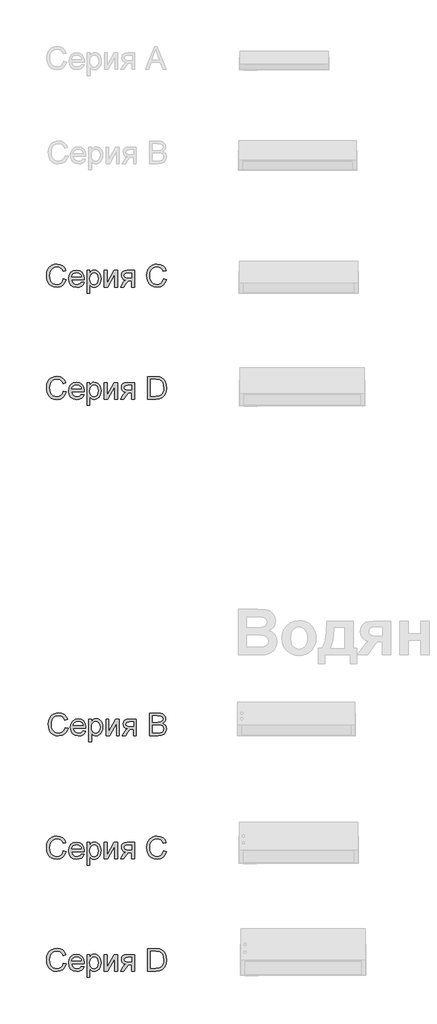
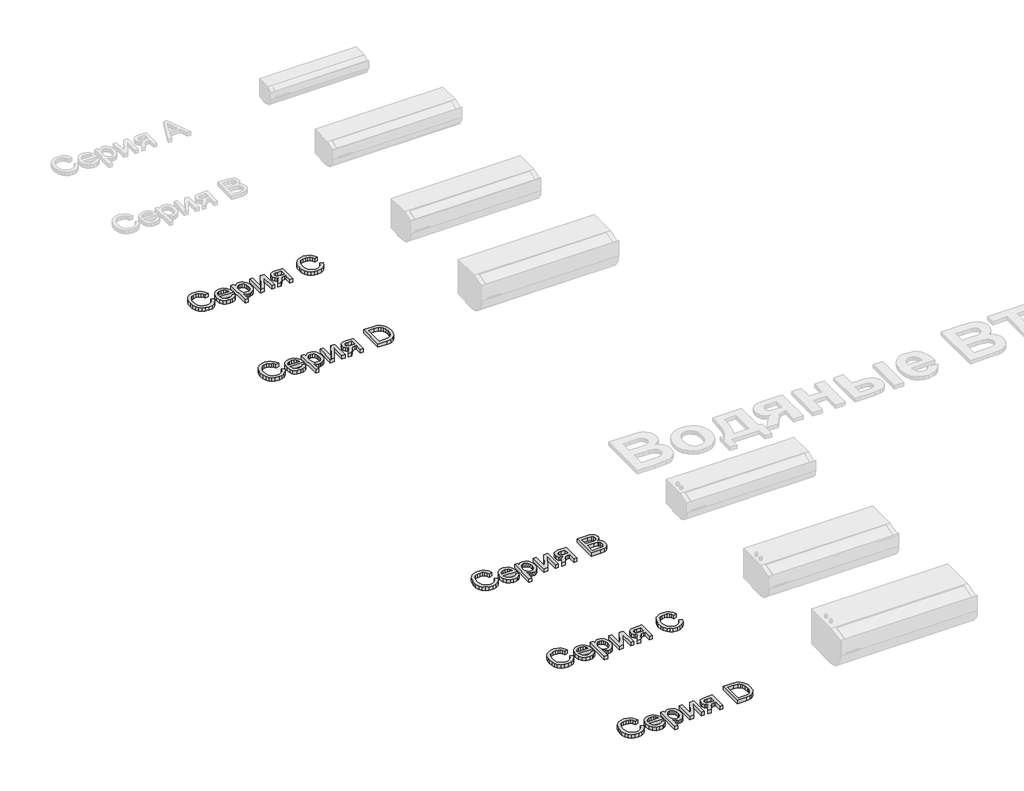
# One storey, part 4 of 8: 5 proxies.
"""IFC4 building model written with IfcOpenShell, lengths in millimetres."""

from ifc_helpers import new_model, si_unit, origin, origin_with_axes, place, context, project, spatial, polyline, outline, extrude, element, save

model = new_model("IFC4")

# Units and contexts
model_context = context("Model", 3, world=origin())
ifc_project = project(units=[si_unit("LENGTHUNIT", "METRE", prefix="MILLI")], contexts=[model_context])

# Site, building, storey
site = spatial("IfcSite", under=ifc_project)
building = spatial("IfcBuilding", under=site)
storey = spatial("IfcBuildingStorey", under=building, Name="Уровень 1", Elevation=0.0)

# Proxies
placement = place(None, origin())
element("IfcBuildingElementProxy", 1, Name="ИЗТТ_Текст2", ObjectType="ИЗТТ_Текст2", at=placement, inside=storey, context=model_context, shape_type="SweptSolid", body=[
    extrude(outline(polyline([(-16897.3788822, 12922.2564624), (-16872.2648047, 12915.7817392), (-16883.8530875, 12886.5167265), (-16902.0387208, 12865.1366512), (-16925.926525, 12852.0584463), (-16954.6213207, 12847.6990447), (-16983.7514433, 12850.9977199), (-17006.8850894, 12860.8937456), (-17024.6170016, 12877.0437651), (-17037.5419224, 12899.1044221), (-17045.4329912, 12925.0401028), (-17048.0633474, 12952.8151934), (-17045.0896346, 12982.110863), (-17036.1684963, 13007.4088815), (-17021.7659162, 13027.90604), (-17002.3478782, 13042.7991294), (-16979.3184653, 13051.8674206), (-16954.0817604, 13054.8901843), (-16926.5457931, 13050.9783725), (-16903.7800289, 13039.2429368), (-16886.4957065, 13020.4073787), (-16875.4040644, 12995.1951993), (-16900.5181419, 12989.2109855), (-16909.2246825, 13007.5253775), (-16921.1195336, 13020.0885476), (-16936.3498482, 13027.354217), (-16955.0627791, 13029.7761068), (-16976.6329267, 13027.0905682), (-16994.3525761, 13019.0339526), (-17007.7986631, 13006.4523883), (-17016.5481232, 12990.1920041), (-17021.3489832, 12971.8101671), (-17022.9492699, 12952.8642444), (-17021.0546776, 12929.6631532), (-17015.3709008, 12909.6013217), (-17005.6833416, 12893.4451708), (-16991.7774022, 12881.9611212), (-16975.1062164, 12875.1001219), (-16957.1229182, 12872.8131222), (-16936.1597759, 12875.9278564), (-16918.6915125, 12885.2720591), (-16905.5029429, 12900.7476284), (-16897.3788822, 12922.2564624)])), origin_with_axes(), (0.0, 0.0, 1.0), 30.0),
    extrude(outline(polyline([(-16737.5709435, 12894.78794), (-16712.9473753, 12891.6486804), (-16721.8194628, 12873.0951651), (-16735.9767882, 12859.2260138), (-16755.1005206, 12850.580787), (-16778.8718288, 12847.6990447), (-16808.3391766, 12852.671583), (-16831.0129703, 12867.5891979), (-16845.4707327, 12891.4831335), (-16850.2899868, 12923.3846338), (-16845.4216818, 12956.3591233), (-16830.8167666, 12981.0194797), (-16808.4495412, 12996.3969471), (-16780.2943059, 13001.5227696), (-16753.0158559, 12996.4092098), (-16731.2188477, 12981.0685307), (-16716.9266322, 12956.4572252), (-16712.1625604, 12923.5317866), (-16712.3097132, 12916.7627579), (-16825.1759093, 12916.7627579), (-16820.8287704, 12897.9639879), (-16810.7304096, 12884.1438877), (-16796.1561512, 12875.6458136), (-16778.3813195, 12872.8131222), (-16753.7577513, 12878.061572), (-16744.6097524, 12884.8673889), (-16737.5709435, 12894.78794)]), holes=[polyline([(-16825.1759093, 12941.8768354), (-16737.2766379, 12941.8768354), (-16740.673415, 12955.1451127), (-16747.3320791, 12964.6364682), (-16761.9737825, 12973.4656361), (-16780.3924077, 12976.408692), (-16797.3211109, 12974.0603786), (-16811.3190208, 12967.0154384), (-16821.0494996, 12956.0341609), (-16825.1759093, 12941.8768354)])]), origin_with_axes(), (0.0, 0.0, 1.0), 30.0),
    extrude(outline(polyline([(-16687.0484828, 12794.3316299), (-16687.0484828, 12998.3835099), (-16661.9344053, 12998.3835099), (-16661.9344053, 12973.7599417), (-16644.5703751, 12994.5820626), (-16633.8772718, 12999.7875928), (-16621.1240293, 13001.5227696), (-16604.1401439, 12999.0947484), (-16589.289974, 12991.8106849), (-16577.1989191, 12980.1120375), (-16568.4923785, 12964.4402645), (-16563.231666, 12945.9358001), (-16561.4780952, 12925.7390786), (-16563.4585266, 12904.2609014), (-16569.3998208, 12885.0513299), (-16579.1119055, 12869.0852513), (-16592.4047082, 12857.3375529), (-16607.8864088, 12850.1086717), (-16624.1651871, 12847.6990447), (-16635.7105504, 12849.3115941), (-16646.0173776, 12854.1492423), (-16661.9344053, 12870.4586774), (-16661.9344053, 12794.3316299), (-16687.0484828, 12794.3316299)]), holes=[polyline([(-16661.9344053, 12923.4336847), (-16659.2182099, 12900.9193066), (-16651.0696237, 12885.1739572), (-16639.0460138, 12875.903331), (-16624.7047474, 12872.8131222), (-16610.130489, 12876.0136956), (-16597.8003108, 12885.6154156), (-16589.3942072, 12901.9371135), (-16586.5921727, 12925.2976202), (-16589.3267622, 12947.689371), (-16597.5305307, 12963.6554495), (-16609.5357465, 12973.2203814), (-16623.6746778, 12976.408692), (-16637.8687915, 12973.0180463), (-16650.3338597, 12962.8461092), (-16659.0342689, 12946.2117116), (-16661.9344053, 12923.4336847)])]), origin_with_axes(), (0.0, 0.0, 1.0), 30.0),
    extrude(outline(polyline([(-16533.2247579, 12998.3835099), (-16508.1106804, 12998.3835099), (-16508.1106804, 12885.8606703), (-16446.4046071, 12998.3835099), (-16413.9328896, 12998.3835099), (-16413.9328896, 12850.8383044), (-16439.0469672, 12850.8383044), (-16439.0469672, 12962.6744309), (-16500.360633, 12850.8383044), (-16533.2247579, 12850.8383044), (-16533.2247579, 12998.3835099)])), origin_with_axes(), (0.0, 0.0, 1.0), 30.0),
    extrude(outline(polyline([(-16263.2484244, 12998.3835099), (-16263.2484244, 12850.8383044), (-16288.3625019, 12850.8383044), (-16288.3625019, 12907.3449788), (-16302.0477122, 12907.3449788), (-16320.6870666, 12904.1566682), (-16338.1982495, 12882.7214106), (-16358.2110301, 12850.8383044), (-16387.2491822, 12850.8383044), (-16362.0370028, 12891.158171), (-16350.9024411, 12905.6281962), (-16340.6507962, 12912.0538684), (-16357.8186226, 12917.3145809), (-16369.8851521, 12927.3087084), (-16377.0220628, 12940.6015112), (-16379.401033, 12955.7582494), (-16376.1514087, 12972.9506013), (-16366.4025358, 12986.5622351), (-16350.4977709, 12995.4281912), (-16328.7804705, 12998.3835099), (-16263.2484244, 12998.3835099)]), holes=[polyline([(-16288.3625019, 12973.2694324), (-16321.4718815, 12973.2694324), (-16338.5722629, 12971.8162985), (-16348.2782162, 12967.4568968), (-16354.2869555, 12953.845263), (-16352.0735321, 12944.2741998), (-16345.4332621, 12937.6339298), (-16333.1643976, 12933.7527747), (-16314.0651907, 12932.4590564), (-16288.3625019, 12932.4590564), (-16288.3625019, 12973.2694324)])]), origin_with_axes(), (0.0, 0.0, 1.0), 30.0),
    extrude(outline(polyline([(-16143.9565561, 12850.8383044), (-16143.9565561, 13051.7509247), (-16074.6475882, 13051.7509247), (-16038.7913564, 13048.8569196), (-16022.7762269, 13043.277376), (-16009.2626949, 13034.4849964), (-15995.3690182, 13019.1811054), (-15985.4729926, 13000.1493435), (-15979.5500924, 12977.7575927), (-15977.5757924, 12952.373735), (-15982.9223441, 12911.8331392), (-15996.6566052, 12882.5742578), (-16015.0016541, 12864.3518363), (-16039.0120856, 12854.2718696), (-16071.3121248, 12850.8383044), (-16143.9565561, 12850.8383044)]), holes=[polyline([(-16118.8424786, 12875.9523819), (-16074.4023335, 12875.9523819), (-16042.0777689, 12879.5821509), (-16023.4384145, 12889.8337958), (-16014.7134798, 12900.7047088), (-16008.1590489, 12914.7761951), (-16004.0571647, 12932.1095685), (-16002.6898699, 12952.7661425), (-16005.3692771, 12980.1365629), (-16013.4074987, 13000.3455472), (-16025.2839558, 13014.2269611), (-16039.4780695, 13022.6146706), (-16075.0890466, 13026.6368471), (-16118.8424786, 13026.6368471), (-16118.8424786, 12875.9523819)])]), origin_with_axes(), (0.0, 0.0, 1.0), 30.0),
])
element("IfcBuildingElementProxy", 2, Name="ИЗТТ_Текст2", ObjectType="ИЗТТ_Текст2", at=placement, inside=storey, context=model_context, shape_type="SweptSolid", body=[
    extrude(outline(polyline([(-16897.3788822, 13922.2564624), (-16872.2648047, 13915.7817392), (-16883.8530875, 13886.5167265), (-16902.0387208, 13865.1366512), (-16925.926525, 13852.0584463), (-16954.6213207, 13847.6990447), (-16983.7514433, 13850.9977199), (-17006.8850894, 13860.8937456), (-17024.6170016, 13877.0437651), (-17037.5419224, 13899.1044221), (-17045.4329912, 13925.0401028), (-17048.0633474, 13952.8151934), (-17045.0896346, 13982.110863), (-17036.1684963, 14007.4088815), (-17021.7659162, 14027.90604), (-17002.3478782, 14042.7991294), (-16979.3184653, 14051.8674206), (-16954.0817604, 14054.8901843), (-16926.5457931, 14050.9783725), (-16903.7800289, 14039.2429368), (-16886.4957065, 14020.4073787), (-16875.4040644, 13995.1951993), (-16900.5181419, 13989.2109855), (-16909.2246825, 14007.5253775), (-16921.1195336, 14020.0885476), (-16936.3498482, 14027.354217), (-16955.0627791, 14029.7761068), (-16976.6329267, 14027.0905682), (-16994.3525761, 14019.0339526), (-17007.7986631, 14006.4523883), (-17016.5481232, 13990.1920041), (-17021.3489832, 13971.8101671), (-17022.9492699, 13952.8642444), (-17021.0546776, 13929.6631532), (-17015.3709008, 13909.6013217), (-17005.6833416, 13893.4451708), (-16991.7774022, 13881.9611212), (-16975.1062164, 13875.1001219), (-16957.1229182, 13872.8131222), (-16936.1597759, 13875.9278564), (-16918.6915125, 13885.2720591), (-16905.5029429, 13900.7476284), (-16897.3788822, 13922.2564624)])), origin_with_axes(), (0.0, 0.0, 1.0), 30.0),
    extrude(outline(polyline([(-16737.5709435, 13894.78794), (-16712.9473753, 13891.6486804), (-16721.8194628, 13873.0951651), (-16735.9767882, 13859.2260138), (-16755.1005206, 13850.580787), (-16778.8718288, 13847.6990447), (-16808.3391766, 13852.671583), (-16831.0129703, 13867.5891979), (-16845.4707327, 13891.4831335), (-16850.2899868, 13923.3846338), (-16845.4216818, 13956.3591233), (-16830.8167666, 13981.0194797), (-16808.4495412, 13996.3969471), (-16780.2943059, 14001.5227696), (-16753.0158559, 13996.4092098), (-16731.2188477, 13981.0685307), (-16716.9266322, 13956.4572252), (-16712.1625604, 13923.5317866), (-16712.3097132, 13916.7627579), (-16825.1759093, 13916.7627579), (-16820.8287704, 13897.9639879), (-16810.7304096, 13884.1438877), (-16796.1561512, 13875.6458136), (-16778.3813195, 13872.8131222), (-16753.7577513, 13878.061572), (-16744.6097524, 13884.8673889), (-16737.5709435, 13894.78794)]), holes=[polyline([(-16825.1759093, 13941.8768354), (-16737.2766379, 13941.8768354), (-16740.673415, 13955.1451127), (-16747.3320791, 13964.6364682), (-16761.9737825, 13973.4656361), (-16780.3924077, 13976.408692), (-16797.3211109, 13974.0603786), (-16811.3190208, 13967.0154384), (-16821.0494996, 13956.0341609), (-16825.1759093, 13941.8768354)])]), origin_with_axes(), (0.0, 0.0, 1.0), 30.0),
    extrude(outline(polyline([(-16687.0484828, 13794.3316299), (-16687.0484828, 13998.3835099), (-16661.9344053, 13998.3835099), (-16661.9344053, 13973.7599417), (-16644.5703751, 13994.5820626), (-16633.8772718, 13999.7875928), (-16621.1240293, 14001.5227696), (-16604.1401439, 13999.0947484), (-16589.289974, 13991.8106849), (-16577.1989191, 13980.1120375), (-16568.4923785, 13964.4402645), (-16563.231666, 13945.9358001), (-16561.4780952, 13925.7390786), (-16563.4585266, 13904.2609014), (-16569.3998208, 13885.0513299), (-16579.1119055, 13869.0852513), (-16592.4047082, 13857.3375529), (-16607.8864088, 13850.1086717), (-16624.1651871, 13847.6990447), (-16635.7105504, 13849.3115941), (-16646.0173776, 13854.1492423), (-16661.9344053, 13870.4586774), (-16661.9344053, 13794.3316299), (-16687.0484828, 13794.3316299)]), holes=[polyline([(-16661.9344053, 13923.4336847), (-16659.2182099, 13900.9193066), (-16651.0696237, 13885.1739572), (-16639.0460138, 13875.903331), (-16624.7047474, 13872.8131222), (-16610.130489, 13876.0136956), (-16597.8003108, 13885.6154156), (-16589.3942072, 13901.9371135), (-16586.5921727, 13925.2976202), (-16589.3267622, 13947.689371), (-16597.5305307, 13963.6554495), (-16609.5357465, 13973.2203814), (-16623.6746778, 13976.408692), (-16637.8687915, 13973.0180463), (-16650.3338597, 13962.8461092), (-16659.0342689, 13946.2117116), (-16661.9344053, 13923.4336847)])]), origin_with_axes(), (0.0, 0.0, 1.0), 30.0),
    extrude(outline(polyline([(-16533.2247579, 13998.3835099), (-16508.1106804, 13998.3835099), (-16508.1106804, 13885.8606703), (-16446.4046071, 13998.3835099), (-16413.9328896, 13998.3835099), (-16413.9328896, 13850.8383044), (-16439.0469672, 13850.8383044), (-16439.0469672, 13962.6744309), (-16500.360633, 13850.8383044), (-16533.2247579, 13850.8383044), (-16533.2247579, 13998.3835099)])), origin_with_axes(), (0.0, 0.0, 1.0), 30.0),
    extrude(outline(polyline([(-16263.2484244, 13998.3835099), (-16263.2484244, 13850.8383044), (-16288.3625019, 13850.8383044), (-16288.3625019, 13907.3449788), (-16302.0477122, 13907.3449788), (-16320.6870666, 13904.1566682), (-16338.1982495, 13882.7214106), (-16358.2110301, 13850.8383044), (-16387.2491822, 13850.8383044), (-16362.0370028, 13891.158171), (-16350.9024411, 13905.6281962), (-16340.6507962, 13912.0538684), (-16357.8186226, 13917.3145809), (-16369.8851521, 13927.3087084), (-16377.0220628, 13940.6015112), (-16379.401033, 13955.7582494), (-16376.1514087, 13972.9506013), (-16366.4025358, 13986.5622351), (-16350.4977709, 13995.4281912), (-16328.7804705, 13998.3835099), (-16263.2484244, 13998.3835099)]), holes=[polyline([(-16288.3625019, 13973.2694324), (-16321.4718815, 13973.2694324), (-16338.5722629, 13971.8162985), (-16348.2782162, 13967.4568968), (-16354.2869555, 13953.845263), (-16352.0735321, 13944.2741998), (-16345.4332621, 13937.6339298), (-16333.1643976, 13933.7527747), (-16314.0651907, 13932.4590564), (-16288.3625019, 13932.4590564), (-16288.3625019, 13973.2694324)])]), origin_with_axes(), (0.0, 0.0, 1.0), 30.0),
    extrude(outline(polyline([(-16002.6898699, 13922.2564624), (-15977.5757924, 13915.7817392), (-15989.1640753, 13886.5167265), (-16007.3497086, 13865.1366512), (-16031.2375128, 13852.0584463), (-16059.9323084, 13847.6990447), (-16089.062431, 13850.9977199), (-16112.1960772, 13860.8937456), (-16129.9279893, 13877.0437651), (-16142.8529101, 13899.1044221), (-16150.7439789, 13925.0401028), (-16153.3743352, 13952.8151934), (-16150.4006224, 13982.110863), (-16141.479484, 14007.4088815), (-16127.0769039, 14027.90604), (-16107.6588659, 14042.7991294), (-16084.629453, 14051.8674206), (-16059.3927481, 14054.8901843), (-16031.8567808, 14050.9783725), (-16009.0910167, 14039.2429368), (-15991.8066943, 14020.4073787), (-15980.7150521, 13995.1951993), (-16005.8291296, 13989.2109855), (-16014.5356702, 14007.5253775), (-16026.4305214, 14020.0885476), (-16041.660836, 14027.354217), (-16060.3737668, 14029.7761068), (-16081.9439144, 14027.0905682), (-16099.6635639, 14019.0339526), (-16113.1096508, 14006.4523883), (-16121.8591109, 13990.1920041), (-16126.659971, 13971.8101671), (-16128.2602576, 13952.8642444), (-16126.3656654, 13929.6631532), (-16120.6818885, 13909.6013217), (-16110.9943293, 13893.4451708), (-16097.0883899, 13881.9611212), (-16080.4172042, 13875.1001219), (-16062.433906, 13872.8131222), (-16041.4707636, 13875.9278564), (-16024.0025002, 13885.2720591), (-16010.8139307, 13900.7476284), (-16002.6898699, 13922.2564624)])), origin_with_axes(), (0.0, 0.0, 1.0), 30.0),
])
element("IfcBuildingElementProxy", 3, Name="ИЗТТ_Текст2", ObjectType="ИЗТТ_Текст2", at=placement, inside=storey, context=model_context, shape_type="SweptSolid", body=[
    extrude(outline(polyline([(-16881.6825838, 9922.2564624), (-16856.5685062, 9915.7817392), (-16868.1567891, 9886.5167265), (-16886.3424224, 9865.1366512), (-16910.2302266, 9852.0584463), (-16938.9250222, 9847.6990447), (-16968.0551449, 9850.9977199), (-16991.188791, 9860.8937456), (-17008.9207032, 9877.0437651), (-17021.8456239, 9899.1044221), (-17029.7366927, 9925.0401028), (-17032.367049, 9952.8151934), (-17029.3933362, 9982.110863), (-17020.4721978, 10007.4088815), (-17006.0696177, 10027.90604), (-16986.6515797, 10042.7991294), (-16963.6221668, 10051.8674206), (-16938.3854619, 10054.8901843), (-16910.8494946, 10050.9783725), (-16888.0837305, 10039.2429368), (-16870.7994081, 10020.4073787), (-16859.7077659, 9995.1951993), (-16884.8218434, 9989.2109855), (-16893.528384, 10007.5253775), (-16905.4232352, 10020.0885476), (-16920.6535498, 10027.354217), (-16939.3664806, 10029.7761068), (-16960.9366282, 10027.0905682), (-16978.6562777, 10019.0339526), (-16992.1023646, 10006.4523883), (-17000.8518247, 9990.1920041), (-17005.6526848, 9971.8101671), (-17007.2529714, 9952.8642444), (-17005.3583792, 9929.6631532), (-16999.6746023, 9909.6013217), (-16989.9870431, 9893.4451708), (-16976.0811037, 9881.9611212), (-16959.409918, 9875.1001219), (-16941.4266198, 9872.8131222), (-16920.4634774, 9875.9278564), (-16902.995214, 9885.2720591), (-16889.8066445, 9900.7476284), (-16881.6825838, 9922.2564624)])), origin_with_axes(), (0.0, 0.0, 1.0), 30.0),
    extrude(outline(polyline([(-16721.874645, 9894.78794), (-16697.2510768, 9891.6486804), (-16706.1231643, 9873.0951651), (-16720.2804897, 9859.2260138), (-16739.4042221, 9850.580787), (-16763.1755304, 9847.6990447), (-16792.6428782, 9852.671583), (-16815.3166718, 9867.5891979), (-16829.7744342, 9891.4831335), (-16834.5936884, 9923.3846338), (-16829.7253833, 9956.3591233), (-16815.1204681, 9981.0194797), (-16792.7532428, 9996.3969471), (-16764.5980074, 10001.5227696), (-16737.3195575, 9996.4092098), (-16715.5225493, 9981.0685307), (-16701.2303338, 9956.4572252), (-16696.4662619, 9923.5317866), (-16696.6134147, 9916.7627579), (-16809.4796108, 9916.7627579), (-16805.1324719, 9897.9639879), (-16795.0341112, 9884.1438877), (-16780.4598528, 9875.6458136), (-16762.685021, 9872.8131222), (-16738.0614528, 9878.061572), (-16728.9134539, 9884.8673889), (-16721.874645, 9894.78794)]), holes=[polyline([(-16809.4796108, 9941.8768354), (-16721.5803395, 9941.8768354), (-16724.9771165, 9955.1451127), (-16731.6357807, 9964.6364682), (-16746.2774841, 9973.4656361), (-16764.6961093, 9976.408692), (-16781.6248124, 9974.0603786), (-16795.6227223, 9967.0154384), (-16805.3532011, 9956.0341609), (-16809.4796108, 9941.8768354)])]), origin_with_axes(), (0.0, 0.0, 1.0), 30.0),
    extrude(outline(polyline([(-16671.3521844, 9794.3316299), (-16671.3521844, 9998.3835099), (-16646.2381068, 9998.3835099), (-16646.2381068, 9973.7599417), (-16628.8740767, 9994.5820626), (-16618.1809733, 9999.7875928), (-16605.4277308, 10001.5227696), (-16588.4438454, 9999.0947484), (-16573.5936755, 9991.8106849), (-16561.5026206, 9980.1120375), (-16552.7960801, 9964.4402645), (-16547.5353675, 9945.9358001), (-16545.7817967, 9925.7390786), (-16547.7622281, 9904.2609014), (-16553.7035223, 9885.0513299), (-16563.415607, 9869.0852513), (-16576.7084098, 9857.3375529), (-16592.1901104, 9850.1086717), (-16608.4688887, 9847.6990447), (-16620.014252, 9849.3115941), (-16630.3210792, 9854.1492423), (-16646.2381068, 9870.4586774), (-16646.2381068, 9794.3316299), (-16671.3521844, 9794.3316299)]), holes=[polyline([(-16646.2381068, 9923.4336847), (-16643.5219114, 9900.9193066), (-16635.3733253, 9885.1739572), (-16623.3497154, 9875.903331), (-16609.0084489, 9872.8131222), (-16594.4341906, 9876.0136956), (-16582.1040123, 9885.6154156), (-16573.6979088, 9901.9371135), (-16570.8958742, 9925.2976202), (-16573.6304637, 9947.689371), (-16581.8342322, 9963.6554495), (-16593.839448, 9973.2203814), (-16607.9783793, 9976.408692), (-16622.172493, 9973.0180463), (-16634.6375613, 9962.8461092), (-16643.3379704, 9946.2117116), (-16646.2381068, 9923.4336847)])]), origin_with_axes(), (0.0, 0.0, 1.0), 30.0),
    extrude(outline(polyline([(-16517.5284595, 9998.3835099), (-16492.4143819, 9998.3835099), (-16492.4143819, 9885.8606703), (-16430.7083086, 9998.3835099), (-16398.2365912, 9998.3835099), (-16398.2365912, 9850.8383044), (-16423.3506687, 9850.8383044), (-16423.3506687, 9962.6744309), (-16484.6643346, 9850.8383044), (-16517.5284595, 9850.8383044), (-16517.5284595, 9998.3835099)])), origin_with_axes(), (0.0, 0.0, 1.0), 30.0),
    extrude(outline(polyline([(-16247.5521259, 9998.3835099), (-16247.5521259, 9850.8383044), (-16272.6662035, 9850.8383044), (-16272.6662035, 9907.3449788), (-16286.3514137, 9907.3449788), (-16304.9907681, 9904.1566682), (-16322.5019511, 9882.7214106), (-16342.5147316, 9850.8383044), (-16371.5528838, 9850.8383044), (-16346.3407044, 9891.158171), (-16335.2061427, 9905.6281962), (-16324.9544977, 9912.0538684), (-16342.1223242, 9917.3145809), (-16354.1888536, 9927.3087084), (-16361.3257643, 9940.6015112), (-16363.7047345, 9955.7582494), (-16360.4551103, 9972.9506013), (-16350.7062374, 9986.5622351), (-16334.8014725, 9995.4281912), (-16313.084172, 9998.3835099), (-16247.5521259, 9998.3835099)]), holes=[polyline([(-16272.6662035, 9973.2694324), (-16305.775583, 9973.2694324), (-16322.8759644, 9971.8162985), (-16332.5819178, 9967.4568968), (-16338.590657, 9953.845263), (-16336.3772337, 9944.2741998), (-16329.7369637, 9937.6339298), (-16317.4680991, 9933.7527747), (-16298.3688922, 9932.4590564), (-16272.6662035, 9932.4590564), (-16272.6662035, 9973.2694324)])]), origin_with_axes(), (0.0, 0.0, 1.0), 30.0),
    extrude(outline(polyline([(-16128.2602576, 9850.8383044), (-16128.2602576, 10051.7509247), (-16051.5936498, 10051.7509247), (-16030.5078801, 10050.2732653), (-16014.0451609, 10045.8402873), (-16001.4268084, 10038.3416259), (-15991.8741393, 10027.6669167), (-15985.8592687, 10015.1098779), (-15983.8543118, 10001.964228), (-15985.5404376, 9989.8670417), (-15990.598815, 9978.4933567), (-15999.0662323, 9968.5421487), (-16010.9794776, 9960.7123936), (-15996.7485757, 9953.2811773), (-15986.233282, 9941.9749373), (-15979.7401648, 9927.5417004), (-15977.5757924, 9910.7294932), (-15983.4864298, 9883.7269547), (-15998.1281332, 9864.4989891), (-16019.9803237, 9854.2963951), (-16052.182261, 9850.8383044), (-16128.2602576, 9850.8383044)]), holes=[polyline([(-16103.1461801, 9970.1301727), (-16057.283558, 9970.1301727), (-16030.5017488, 9972.2884137), (-16014.3885174, 9981.5835654), (-16008.9683893, 9997.9420515), (-16014.0206354, 10014.325063), (-16028.4906605, 10024.0126222), (-16060.7661743, 10026.6368471), (-16103.1461801, 10026.6368471), (-16103.1461801, 9970.1301727)]), polyline([(-16103.1461801, 9875.9523819), (-16051.6427008, 9875.9523819), (-16033.0033463, 9876.9334005), (-16017.2334715, 9882.4025795), (-16006.7856228, 9893.5616667), (-16002.6898699, 9910.4842385), (-16007.4968613, 9930.0065097), (-16013.7937748, 9937.0637127), (-16023.0705325, 9941.6561062), (-16054.0952474, 9945.0160951), (-16103.1461801, 9945.0160951), (-16103.1461801, 9875.9523819)])]), origin_with_axes(), (0.0, 0.0, 1.0), 30.0),
])
element("IfcBuildingElementProxy", 4, Name="ИЗТТ_Текст2", ObjectType="ИЗТТ_Текст2", at=placement, inside=storey, context=model_context, shape_type="SweptSolid", body=[
    extrude(outline(polyline([(-16897.3788822, 7822.2564624), (-16872.2648047, 7815.7817392), (-16883.8530875, 7786.5167265), (-16902.0387208, 7765.1366512), (-16925.926525, 7752.0584463), (-16954.6213207, 7747.6990447), (-16983.7514433, 7750.9977199), (-17006.8850894, 7760.8937456), (-17024.6170016, 7777.0437651), (-17037.5419224, 7799.1044221), (-17045.4329912, 7825.0401028), (-17048.0633474, 7852.8151934), (-17045.0896346, 7882.110863), (-17036.1684963, 7907.4088815), (-17021.7659162, 7927.90604), (-17002.3478782, 7942.7991294), (-16979.3184653, 7951.8674206), (-16954.0817604, 7954.8901843), (-16926.5457931, 7950.9783725), (-16903.7800289, 7939.2429368), (-16886.4957065, 7920.4073787), (-16875.4040644, 7895.1951993), (-16900.5181419, 7889.2109855), (-16909.2246825, 7907.5253775), (-16921.1195336, 7920.0885476), (-16936.3498482, 7927.354217), (-16955.0627791, 7929.7761068), (-16976.6329267, 7927.0905682), (-16994.3525761, 7919.0339526), (-17007.7986631, 7906.4523883), (-17016.5481232, 7890.1920041), (-17021.3489832, 7871.8101671), (-17022.9492699, 7852.8642444), (-17021.0546776, 7829.6631532), (-17015.3709008, 7809.6013217), (-17005.6833416, 7793.4451708), (-16991.7774022, 7781.9611212), (-16975.1062164, 7775.1001219), (-16957.1229182, 7772.8131222), (-16936.1597759, 7775.9278564), (-16918.6915125, 7785.2720591), (-16905.5029429, 7800.7476284), (-16897.3788822, 7822.2564624)])), origin_with_axes(), (0.0, 0.0, 1.0), 30.0),
    extrude(outline(polyline([(-16737.5709435, 7794.78794), (-16712.9473753, 7791.6486804), (-16721.8194628, 7773.0951651), (-16735.9767882, 7759.2260138), (-16755.1005206, 7750.580787), (-16778.8718288, 7747.6990447), (-16808.3391766, 7752.671583), (-16831.0129703, 7767.5891979), (-16845.4707327, 7791.4831335), (-16850.2899868, 7823.3846338), (-16845.4216818, 7856.3591233), (-16830.8167666, 7881.0194797), (-16808.4495412, 7896.3969471), (-16780.2943059, 7901.5227696), (-16753.0158559, 7896.4092098), (-16731.2188477, 7881.0685307), (-16716.9266322, 7856.4572252), (-16712.1625604, 7823.5317866), (-16712.3097132, 7816.7627579), (-16825.1759093, 7816.7627579), (-16820.8287704, 7797.9639879), (-16810.7304096, 7784.1438877), (-16796.1561512, 7775.6458136), (-16778.3813195, 7772.8131222), (-16753.7577513, 7778.061572), (-16744.6097524, 7784.8673889), (-16737.5709435, 7794.78794)]), holes=[polyline([(-16825.1759093, 7841.8768354), (-16737.2766379, 7841.8768354), (-16740.673415, 7855.1451127), (-16747.3320791, 7864.6364682), (-16761.9737825, 7873.4656361), (-16780.3924077, 7876.408692), (-16797.3211109, 7874.0603786), (-16811.3190208, 7867.0154384), (-16821.0494996, 7856.0341609), (-16825.1759093, 7841.8768354)])]), origin_with_axes(), (0.0, 0.0, 1.0), 30.0),
    extrude(outline(polyline([(-16687.0484828, 7694.3316299), (-16687.0484828, 7898.3835099), (-16661.9344053, 7898.3835099), (-16661.9344053, 7873.7599417), (-16644.5703751, 7894.5820626), (-16633.8772718, 7899.7875928), (-16621.1240293, 7901.5227696), (-16604.1401439, 7899.0947484), (-16589.289974, 7891.8106849), (-16577.1989191, 7880.1120375), (-16568.4923785, 7864.4402645), (-16563.231666, 7845.9358001), (-16561.4780952, 7825.7390786), (-16563.4585266, 7804.2609014), (-16569.3998208, 7785.0513299), (-16579.1119055, 7769.0852513), (-16592.4047082, 7757.3375529), (-16607.8864088, 7750.1086717), (-16624.1651871, 7747.6990447), (-16635.7105504, 7749.3115941), (-16646.0173776, 7754.1492423), (-16661.9344053, 7770.4586774), (-16661.9344053, 7694.3316299), (-16687.0484828, 7694.3316299)]), holes=[polyline([(-16661.9344053, 7823.4336847), (-16659.2182099, 7800.9193066), (-16651.0696237, 7785.1739572), (-16639.0460138, 7775.903331), (-16624.7047474, 7772.8131222), (-16610.130489, 7776.0136956), (-16597.8003108, 7785.6154156), (-16589.3942072, 7801.9371135), (-16586.5921727, 7825.2976202), (-16589.3267622, 7847.689371), (-16597.5305307, 7863.6554495), (-16609.5357465, 7873.2203814), (-16623.6746778, 7876.408692), (-16637.8687915, 7873.0180463), (-16650.3338597, 7862.8461092), (-16659.0342689, 7846.2117116), (-16661.9344053, 7823.4336847)])]), origin_with_axes(), (0.0, 0.0, 1.0), 30.0),
    extrude(outline(polyline([(-16533.2247579, 7898.3835099), (-16508.1106804, 7898.3835099), (-16508.1106804, 7785.8606703), (-16446.4046071, 7898.3835099), (-16413.9328896, 7898.3835099), (-16413.9328896, 7750.8383044), (-16439.0469672, 7750.8383044), (-16439.0469672, 7862.6744309), (-16500.360633, 7750.8383044), (-16533.2247579, 7750.8383044), (-16533.2247579, 7898.3835099)])), origin_with_axes(), (0.0, 0.0, 1.0), 30.0),
    extrude(outline(polyline([(-16263.2484244, 7898.3835099), (-16263.2484244, 7750.8383044), (-16288.3625019, 7750.8383044), (-16288.3625019, 7807.3449788), (-16302.0477122, 7807.3449788), (-16320.6870666, 7804.1566682), (-16338.1982495, 7782.7214106), (-16358.2110301, 7750.8383044), (-16387.2491822, 7750.8383044), (-16362.0370028, 7791.158171), (-16350.9024411, 7805.6281962), (-16340.6507962, 7812.0538684), (-16357.8186226, 7817.3145809), (-16369.8851521, 7827.3087084), (-16377.0220628, 7840.6015112), (-16379.401033, 7855.7582494), (-16376.1514087, 7872.9506013), (-16366.4025358, 7886.5622351), (-16350.4977709, 7895.4281912), (-16328.7804705, 7898.3835099), (-16263.2484244, 7898.3835099)]), holes=[polyline([(-16288.3625019, 7873.2694324), (-16321.4718815, 7873.2694324), (-16338.5722629, 7871.8162985), (-16348.2782162, 7867.4568968), (-16354.2869555, 7853.845263), (-16352.0735321, 7844.2741998), (-16345.4332621, 7837.6339298), (-16333.1643976, 7833.7527747), (-16314.0651907, 7832.4590564), (-16288.3625019, 7832.4590564), (-16288.3625019, 7873.2694324)])]), origin_with_axes(), (0.0, 0.0, 1.0), 30.0),
    extrude(outline(polyline([(-16143.9565561, 7750.8383044), (-16143.9565561, 7951.7509247), (-16074.6475882, 7951.7509247), (-16038.7913564, 7948.8569196), (-16022.7762269, 7943.277376), (-16009.2626949, 7934.4849964), (-15995.3690182, 7919.1811054), (-15985.4729926, 7900.1493435), (-15979.5500924, 7877.7575927), (-15977.5757924, 7852.373735), (-15982.9223441, 7811.8331392), (-15996.6566052, 7782.5742578), (-16015.0016541, 7764.3518363), (-16039.0120856, 7754.2718696), (-16071.3121248, 7750.8383044), (-16143.9565561, 7750.8383044)]), holes=[polyline([(-16118.8424786, 7775.9523819), (-16074.4023335, 7775.9523819), (-16042.0777689, 7779.5821509), (-16023.4384145, 7789.8337958), (-16014.7134798, 7800.7047088), (-16008.1590489, 7814.7761951), (-16004.0571647, 7832.1095685), (-16002.6898699, 7852.7661425), (-16005.3692771, 7880.1365629), (-16013.4074987, 7900.3455472), (-16025.2839558, 7914.2269611), (-16039.4780695, 7922.6146706), (-16075.0890466, 7926.6368471), (-16118.8424786, 7926.6368471), (-16118.8424786, 7775.9523819)])]), origin_with_axes(), (0.0, 0.0, 1.0), 30.0),
])
element("IfcBuildingElementProxy", 5, Name="ИЗТТ_Текст2", ObjectType="ИЗТТ_Текст2", at=placement, inside=storey, context=model_context, shape_type="SweptSolid", body=[
    extrude(outline(polyline([(-16897.3788822, 8822.2564624), (-16872.2648047, 8815.7817392), (-16883.8530875, 8786.5167265), (-16902.0387208, 8765.1366512), (-16925.926525, 8752.0584463), (-16954.6213207, 8747.6990447), (-16983.7514433, 8750.9977199), (-17006.8850894, 8760.8937456), (-17024.6170016, 8777.0437651), (-17037.5419224, 8799.1044221), (-17045.4329912, 8825.0401028), (-17048.0633474, 8852.8151934), (-17045.0896346, 8882.110863), (-17036.1684963, 8907.4088815), (-17021.7659162, 8927.90604), (-17002.3478782, 8942.7991294), (-16979.3184653, 8951.8674206), (-16954.0817604, 8954.8901843), (-16926.5457931, 8950.9783725), (-16903.7800289, 8939.2429368), (-16886.4957065, 8920.4073787), (-16875.4040644, 8895.1951993), (-16900.5181419, 8889.2109855), (-16909.2246825, 8907.5253775), (-16921.1195336, 8920.0885476), (-16936.3498482, 8927.354217), (-16955.0627791, 8929.7761068), (-16976.6329267, 8927.0905682), (-16994.3525761, 8919.0339526), (-17007.7986631, 8906.4523883), (-17016.5481232, 8890.1920041), (-17021.3489832, 8871.8101671), (-17022.9492699, 8852.8642444), (-17021.0546776, 8829.6631532), (-17015.3709008, 8809.6013217), (-17005.6833416, 8793.4451708), (-16991.7774022, 8781.9611212), (-16975.1062164, 8775.1001219), (-16957.1229182, 8772.8131222), (-16936.1597759, 8775.9278564), (-16918.6915125, 8785.2720591), (-16905.5029429, 8800.7476284), (-16897.3788822, 8822.2564624)])), origin_with_axes(), (0.0, 0.0, 1.0), 30.0),
    extrude(outline(polyline([(-16737.5709435, 8794.78794), (-16712.9473753, 8791.6486804), (-16721.8194628, 8773.0951651), (-16735.9767882, 8759.2260138), (-16755.1005206, 8750.580787), (-16778.8718288, 8747.6990447), (-16808.3391766, 8752.671583), (-16831.0129703, 8767.5891979), (-16845.4707327, 8791.4831335), (-16850.2899868, 8823.3846338), (-16845.4216818, 8856.3591233), (-16830.8167666, 8881.0194797), (-16808.4495412, 8896.3969471), (-16780.2943059, 8901.5227696), (-16753.0158559, 8896.4092098), (-16731.2188477, 8881.0685307), (-16716.9266322, 8856.4572252), (-16712.1625604, 8823.5317866), (-16712.3097132, 8816.7627579), (-16825.1759093, 8816.7627579), (-16820.8287704, 8797.9639879), (-16810.7304096, 8784.1438877), (-16796.1561512, 8775.6458136), (-16778.3813195, 8772.8131222), (-16753.7577513, 8778.061572), (-16744.6097524, 8784.8673889), (-16737.5709435, 8794.78794)]), holes=[polyline([(-16825.1759093, 8841.8768354), (-16737.2766379, 8841.8768354), (-16740.673415, 8855.1451127), (-16747.3320791, 8864.6364682), (-16761.9737825, 8873.4656361), (-16780.3924077, 8876.408692), (-16797.3211109, 8874.0603786), (-16811.3190208, 8867.0154384), (-16821.0494996, 8856.0341609), (-16825.1759093, 8841.8768354)])]), origin_with_axes(), (0.0, 0.0, 1.0), 30.0),
    extrude(outline(polyline([(-16687.0484828, 8694.3316299), (-16687.0484828, 8898.3835099), (-16661.9344053, 8898.3835099), (-16661.9344053, 8873.7599417), (-16644.5703751, 8894.5820626), (-16633.8772718, 8899.7875928), (-16621.1240293, 8901.5227696), (-16604.1401439, 8899.0947484), (-16589.289974, 8891.8106849), (-16577.1989191, 8880.1120375), (-16568.4923785, 8864.4402645), (-16563.231666, 8845.9358001), (-16561.4780952, 8825.7390786), (-16563.4585266, 8804.2609014), (-16569.3998208, 8785.0513299), (-16579.1119055, 8769.0852513), (-16592.4047082, 8757.3375529), (-16607.8864088, 8750.1086717), (-16624.1651871, 8747.6990447), (-16635.7105504, 8749.3115941), (-16646.0173776, 8754.1492423), (-16661.9344053, 8770.4586774), (-16661.9344053, 8694.3316299), (-16687.0484828, 8694.3316299)]), holes=[polyline([(-16661.9344053, 8823.4336847), (-16659.2182099, 8800.9193066), (-16651.0696237, 8785.1739572), (-16639.0460138, 8775.903331), (-16624.7047474, 8772.8131222), (-16610.130489, 8776.0136956), (-16597.8003108, 8785.6154156), (-16589.3942072, 8801.9371135), (-16586.5921727, 8825.2976202), (-16589.3267622, 8847.689371), (-16597.5305307, 8863.6554495), (-16609.5357465, 8873.2203814), (-16623.6746778, 8876.408692), (-16637.8687915, 8873.0180463), (-16650.3338597, 8862.8461092), (-16659.0342689, 8846.2117116), (-16661.9344053, 8823.4336847)])]), origin_with_axes(), (0.0, 0.0, 1.0), 30.0),
    extrude(outline(polyline([(-16533.2247579, 8898.3835099), (-16508.1106804, 8898.3835099), (-16508.1106804, 8785.8606703), (-16446.4046071, 8898.3835099), (-16413.9328896, 8898.3835099), (-16413.9328896, 8750.8383044), (-16439.0469672, 8750.8383044), (-16439.0469672, 8862.6744309), (-16500.360633, 8750.8383044), (-16533.2247579, 8750.8383044), (-16533.2247579, 8898.3835099)])), origin_with_axes(), (0.0, 0.0, 1.0), 30.0),
    extrude(outline(polyline([(-16263.2484244, 8898.3835099), (-16263.2484244, 8750.8383044), (-16288.3625019, 8750.8383044), (-16288.3625019, 8807.3449788), (-16302.0477122, 8807.3449788), (-16320.6870666, 8804.1566682), (-16338.1982495, 8782.7214106), (-16358.2110301, 8750.8383044), (-16387.2491822, 8750.8383044), (-16362.0370028, 8791.158171), (-16350.9024411, 8805.6281962), (-16340.6507962, 8812.0538684), (-16357.8186226, 8817.3145809), (-16369.8851521, 8827.3087084), (-16377.0220628, 8840.6015112), (-16379.401033, 8855.7582494), (-16376.1514087, 8872.9506013), (-16366.4025358, 8886.5622351), (-16350.4977709, 8895.4281912), (-16328.7804705, 8898.3835099), (-16263.2484244, 8898.3835099)]), holes=[polyline([(-16288.3625019, 8873.2694324), (-16321.4718815, 8873.2694324), (-16338.5722629, 8871.8162985), (-16348.2782162, 8867.4568968), (-16354.2869555, 8853.845263), (-16352.0735321, 8844.2741998), (-16345.4332621, 8837.6339298), (-16333.1643976, 8833.7527747), (-16314.0651907, 8832.4590564), (-16288.3625019, 8832.4590564), (-16288.3625019, 8873.2694324)])]), origin_with_axes(), (0.0, 0.0, 1.0), 30.0),
    extrude(outline(polyline([(-16002.6898699, 8822.2564624), (-15977.5757924, 8815.7817392), (-15989.1640753, 8786.5167265), (-16007.3497086, 8765.1366512), (-16031.2375128, 8752.0584463), (-16059.9323084, 8747.6990447), (-16089.062431, 8750.9977199), (-16112.1960772, 8760.8937456), (-16129.9279893, 8777.0437651), (-16142.8529101, 8799.1044221), (-16150.7439789, 8825.0401028), (-16153.3743352, 8852.8151934), (-16150.4006224, 8882.110863), (-16141.479484, 8907.4088815), (-16127.0769039, 8927.90604), (-16107.6588659, 8942.7991294), (-16084.629453, 8951.8674206), (-16059.3927481, 8954.8901843), (-16031.8567808, 8950.9783725), (-16009.0910167, 8939.2429368), (-15991.8066943, 8920.4073787), (-15980.7150521, 8895.1951993), (-16005.8291296, 8889.2109855), (-16014.5356702, 8907.5253775), (-16026.4305214, 8920.0885476), (-16041.660836, 8927.354217), (-16060.3737668, 8929.7761068), (-16081.9439144, 8927.0905682), (-16099.6635639, 8919.0339526), (-16113.1096508, 8906.4523883), (-16121.8591109, 8890.1920041), (-16126.659971, 8871.8101671), (-16128.2602576, 8852.8642444), (-16126.3656654, 8829.6631532), (-16120.6818885, 8809.6013217), (-16110.9943293, 8793.4451708), (-16097.0883899, 8781.9611212), (-16080.4172042, 8775.1001219), (-16062.433906, 8772.8131222), (-16041.4707636, 8775.9278564), (-16024.0025002, 8785.2720591), (-16010.8139307, 8800.7476284), (-16002.6898699, 8822.2564624)])), origin_with_axes(), (0.0, 0.0, 1.0), 30.0),
])

save(model, "model.ifc")
